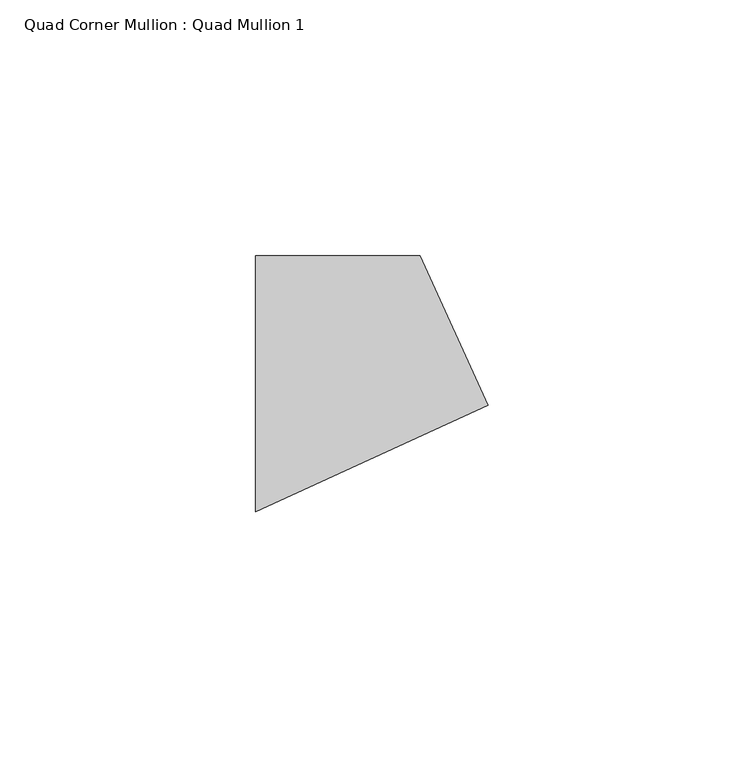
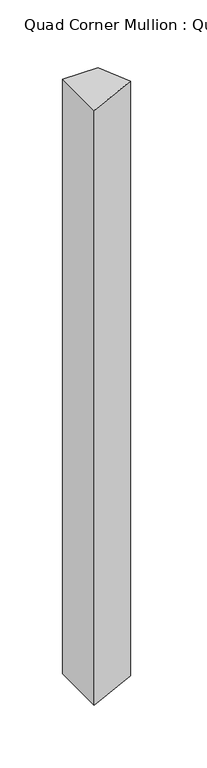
"""IFC4 building model written with IfcOpenShell, lengths in millimetres: member geometry, Quad Corner Mullion : Quad Mullion 1."""

import ifcopenshell
import ifcopenshell.guid

model = None  # the IFC model being written
_history = None  # IfcOwnerHistory: only IFC2X3 demands one
_inside = {}  # id of a spatial element -> (the spatial element, [elements in it])
_under = {}  # id of a project, library or spatial element -> (it, [spatial elements below it])
_declared = {}  # id of a project -> (the project, [libraries it declares])
_typed = {}  # id of a type object -> (the type object, [elements of that type])
_made_of = {}  # id of a material, layer set ... -> (it, [elements and type objects made of it])


def new_model(schema):
    """Start an empty IFC model of exactly this schema.

    Asked for "IFC4X3", IfcOpenShell would pick the latest addendum, in which some entities
    have other attributes; the version numbers below select the first issue.
    IFC2X3 requires an IfcOwnerHistory on every rooted entity: one is made here for all.
    """
    global model, _history
    if schema == "IFC4X3":
        model = ifcopenshell.file(schema_version=(4, 3, 0, 0))
    else:
        model = ifcopenshell.file(schema=schema)
    _inside.clear()
    _under.clear()
    _declared.clear()
    _typed.clear()
    _made_of.clear()
    _history = None
    if model.schema == "IFC2X3":
        org = make("IfcOrganization", Name="unknown")
        user = make(
            "IfcPersonAndOrganization",
            ThePerson=make("IfcPerson", FamilyName="unknown"),
            TheOrganization=org,
        )
        app = make(
            "IfcApplication",
            ApplicationDeveloper=org,
            Version="unknown",
            ApplicationFullName="unknown",
            ApplicationIdentifier="unknown",
        )
        _history = make(
            "IfcOwnerHistory",
            OwningUser=user,
            OwningApplication=app,
            ChangeAction="ADDED",
            CreationDate=0,
        )
    return model


def make(cls, **values):
    """One entity of the class cls with the attributes given. An attribute that is None is left unset."""
    return model.create_entity(
        cls, **{name: value for name, value in values.items() if value is not None}
    )


def rooted(cls, **values):
    """An entity with a GlobalId (a new one), such as an element, a storey or a relation."""
    return make(cls, GlobalId=ifcopenshell.guid.new(), OwnerHistory=_history, **values)


def si_unit(unit_type, name, prefix=None):
    """IfcSIUnit, for example si_unit("LENGTHUNIT", "METRE", prefix="MILLI")."""
    return make("IfcSIUnit", UnitType=unit_type, Prefix=prefix, Name=name)


def assignment(units):
    """IfcUnitAssignment: the units of a project."""
    return None if units is None else make("IfcUnitAssignment", Units=units)


def point(xyz):
    """IfcCartesianPoint."""
    return None if xyz is None else make("IfcCartesianPoint", Coordinates=xyz)


def direction(xyz):
    """IfcDirection."""
    return None if xyz is None else make("IfcDirection", DirectionRatios=xyz)


def frame(location, z_axis=None, x_axis=None):
    """IfcAxis2Placement3D, a coordinate frame: its origin and axes. An axis left out is left unset."""
    return make(
        "IfcAxis2Placement3D",
        Location=point(location),
        Axis=direction(z_axis),
        RefDirection=direction(x_axis),
    )


def origin():
    """The frame at (0, 0, 0) with its axes left unset."""
    return frame((0.0, 0.0, 0.0))


def place(relative_to, where):
    """IfcLocalPlacement: puts the frame where relative to a parent placement (None: the world)."""
    return make(
        "IfcLocalPlacement", PlacementRelTo=relative_to, RelativePlacement=where
    )


def context(
    kind, dimensions, precision=None, world=None, true_north=None, identifier=None
):
    """IfcGeometricRepresentationContext, for example the 3D "Model" context."""
    return make(
        "IfcGeometricRepresentationContext",
        ContextIdentifier=identifier,
        ContextType=kind,
        CoordinateSpaceDimension=dimensions,
        Precision=precision,
        WorldCoordinateSystem=world,
        TrueNorth=true_north,
    )


def project(units=None, contexts=None):
    """IfcProject with its units and contexts."""
    return rooted(
        "IfcProject",
        Name="project",
        RepresentationContexts=contexts,
        UnitsInContext=assignment(units),
    )


def spatial(cls, under=None, at=None, **own):
    """A site, building, storey or space (cls), placed at a placement, below another one or the project."""
    s = rooted(cls, ObjectPlacement=at, **own)
    if under is not None:
        _under.setdefault(under.id(), (under, []))[1].append(s)
    return s


def polyline(points):
    """IfcPolyline through the points."""
    return make("IfcPolyline", Points=[point(p) for p in points])


def outline(outer, holes=None, kind="AREA"):
    """IfcArbitraryClosedProfileDef: a profile drawn as a closed curve; with holes, ...WithVoids."""
    if holes is None:
        return make("IfcArbitraryClosedProfileDef", ProfileType=kind, OuterCurve=outer)
    return make(
        "IfcArbitraryProfileDefWithVoids",
        ProfileType=kind,
        OuterCurve=outer,
        InnerCurves=holes,
    )


def extrude(swept, where, along, depth):
    """IfcExtrudedAreaSolid: the profile swept, set in the frame where, extruded along a direction by depth."""
    return make(
        "IfcExtrudedAreaSolid",
        SweptArea=swept,
        Position=where,
        ExtrudedDirection=direction(along),
        Depth=depth,
    )


def shape(context_of_items, identifier, shape_type, items):
    """IfcShapeRepresentation: the items that make up one representation, for example the "Body"."""
    return make(
        "IfcShapeRepresentation",
        ContextOfItems=context_of_items,
        RepresentationIdentifier=identifier,
        RepresentationType=shape_type,
        Items=items,
    )


def source(mapping_origin, context_of_items, identifier, shape_type, items):
    """IfcRepresentationMap: a shape defined once, which mapped items show again and again."""
    return make(
        "IfcRepresentationMap",
        MappingOrigin=mapping_origin,
        MappedRepresentation=shape(context_of_items, identifier, shape_type, items),
    )


def transform(
    local_origin,
    x_axis=None,
    y_axis=None,
    z_axis=None,
    scale=None,
    scale2=None,
    scale3=None,
    uniform=True,
):
    """IfcCartesianTransformationOperator3D, or its non-uniform kind. x_axis, y_axis, z_axis: its Axis1, 2, 3."""
    if uniform:
        return make(
            "IfcCartesianTransformationOperator3D",
            Axis1=direction(x_axis),
            Axis2=direction(y_axis),
            LocalOrigin=point(local_origin),
            Scale=scale,
            Axis3=direction(z_axis),
        )
    return make(
        "IfcCartesianTransformationOperator3DnonUniform",
        Axis1=direction(x_axis),
        Axis2=direction(y_axis),
        LocalOrigin=point(local_origin),
        Scale=scale,
        Axis3=direction(z_axis),
        Scale2=scale2,
        Scale3=scale3,
    )


def mapped(mapping_source, mapping_target):
    """IfcMappedItem: shows the shape of a source again, moved by a transform."""
    return make(
        "IfcMappedItem", MappingSource=mapping_source, MappingTarget=mapping_target
    )


def made_of(thing, what):
    """Note that an element or type object is made of a material, layer set ...; save() writes the relation."""
    if what is not None:
        _made_of.setdefault(what.id(), (what, []))[1].append(thing)
    return thing


def element(
    cls,
    number,
    at=None,
    inside=None,
    cuts=None,
    type_object=None,
    material=None,
    context=None,
    identifier="Body",
    shape_type=None,
    held_by="IfcProductDefinitionShape",
    body=None,
    shapes=None,
    **own,
):
    """One element of the class cls, such as IfcWall. Its Tag is "e" and its number.

    at: its placement. inside: the storey or other place that contains it. cuts: it is an
    opening in that element (IfcRelVoidsElement). A single representation is given by context,
    identifier, shape_type and body (its items); several are given by shapes. held_by: the class
    of the entity that holds the representations. save() writes the other relations.
    """
    e = rooted(cls, Tag="e%d" % number, ObjectPlacement=at, **own)
    if body is not None:
        shapes = [shape(context, identifier, shape_type, body)]
    if shapes is not None:
        e.Representation = make(held_by, Representations=shapes)
    if inside is not None:
        _inside.setdefault(inside.id(), (inside, []))[1].append(e)
    if cuts is not None:
        rooted(
            "IfcRelVoidsElement", RelatingBuildingElement=cuts, RelatedOpeningElement=e
        )
    if type_object is not None:
        _typed.setdefault(type_object.id(), (type_object, []))[1].append(e)
    return made_of(e, material)


def aggregate(whole, parts):
    """IfcRelAggregates: a whole, such as a stair, and the parts it consists of."""
    return rooted("IfcRelAggregates", RelatingObject=whole, RelatedObjects=parts)


def save(model, path):
    """Write the relations noted so far, then the file.

    IfcRelAggregates (storeys below a building ...), IfcRelContainedInSpatialStructure (elements
    in a storey), IfcRelDefinesByType, IfcRelAssociatesMaterial and IfcRelDeclares: one each for
    every whole, place, type object, material and project.
    """
    for whole, parts in _under.values():
        aggregate(whole, parts)
    for where, things in _inside.values():
        rooted(
            "IfcRelContainedInSpatialStructure",
            RelatedElements=things,
            RelatingStructure=where,
        )
    for kind, things in _typed.values():
        rooted("IfcRelDefinesByType", RelatedObjects=things, RelatingType=kind)
    for what, things in _made_of.values():
        rooted("IfcRelAssociatesMaterial", RelatedObjects=things, RelatingMaterial=what)
    for by, libraries in _declared.values():
        rooted("IfcRelDeclares", RelatingContext=by, RelatedDefinitions=libraries)
    model.write(path)


def quad_corner_mullion_quad_mullion_1_beae85a1(model_context):
    return source(origin(), model_context, "Body", "SweptSolid", [
        extrude(outline(polyline([(29.4125559, -4.1926582), (-16.0523154, -25.0), (-16.0523154, 25.0), (16.0523154, 25.0), (29.4125559, -4.1926582)])), frame((0.0, 0.0, -576.0095628), z_axis=(0.0, 0.0, 1.0), x_axis=(1.0, 0.0, 0.0)), (0.0, 0.0, 1.0), 576.0095628),
    ])


if __name__ == "__main__":
    model = new_model("IFC4")
    model_context = context("Model", 3, world=origin())
    ifc_project = project(units=[si_unit("LENGTHUNIT", "METRE", prefix="MILLI")], contexts=[model_context])
    site = spatial("IfcSite", under=ifc_project)
    building = spatial("IfcBuilding", under=site)
    placement = place(None, origin())
    quad_corner_mullion_quad_mullion_1_shape = quad_corner_mullion_quad_mullion_1_beae85a1(model_context)
    element("IfcMember", 1, ObjectType="Quad Corner Mullion : Quad Mullion 1", at=placement, inside=building, context=model_context, shape_type="MappedRepresentation", body=[
        mapped(quad_corner_mullion_quad_mullion_1_shape, transform((0.0, 0.0, 0.0), x_axis=(1.0, 0.0, 0.0), y_axis=(0.0, 1.0, 0.0), z_axis=(0.0, 0.0, 1.0))),
    ])
    save(model, "model.ifc")
